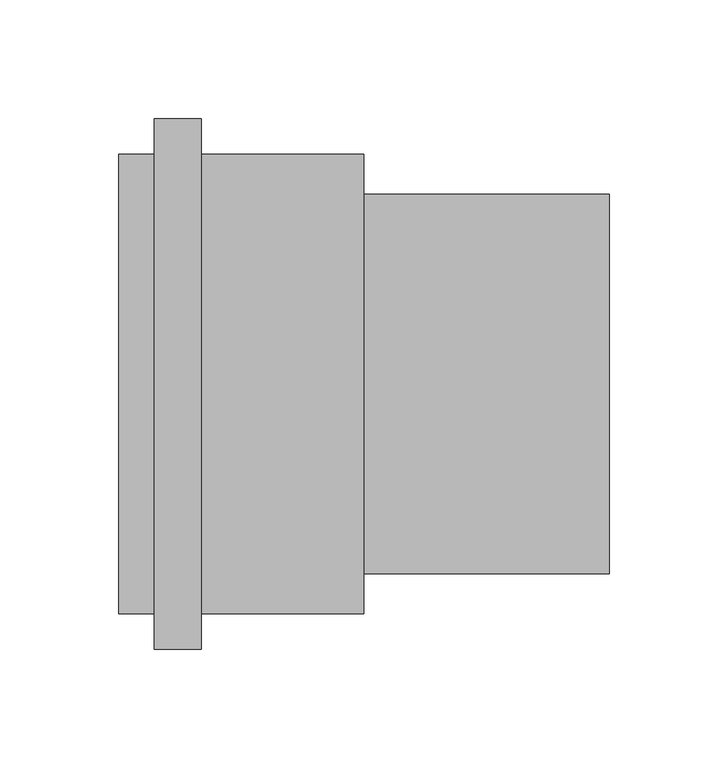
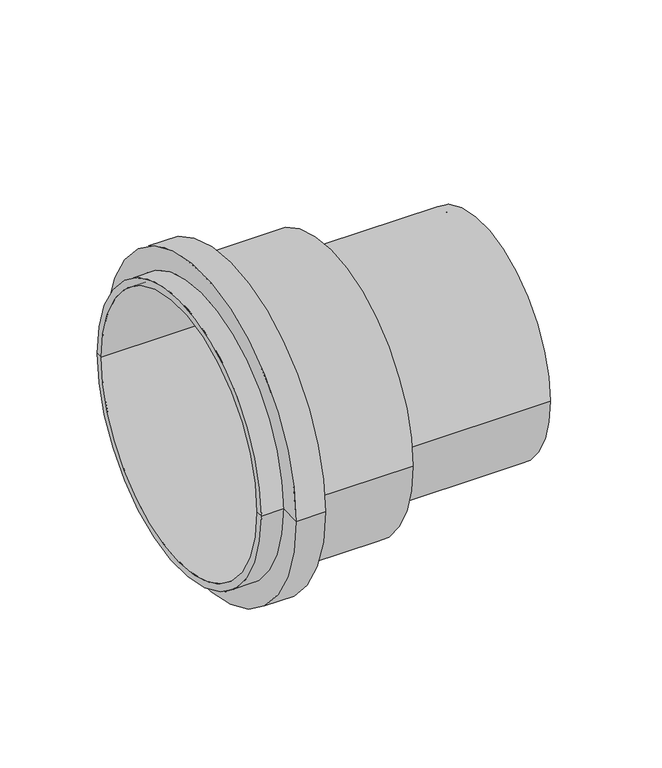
"""IFC4 building model written with IfcOpenShell, lengths in millimetres: pipe fitting geometry, OSMA_KG2000_PPKGUS : Přechodka Kamenina-KG2000."""

import ifcopenshell
import ifcopenshell.guid

model = None  # the IFC model being written
_history = None  # IfcOwnerHistory: only IFC2X3 demands one
_inside = {}  # id of a spatial element -> (the spatial element, [elements in it])
_under = {}  # id of a project, library or spatial element -> (it, [spatial elements below it])
_declared = {}  # id of a project -> (the project, [libraries it declares])
_typed = {}  # id of a type object -> (the type object, [elements of that type])
_made_of = {}  # id of a material, layer set ... -> (it, [elements and type objects made of it])


def new_model(schema):
    """Start an empty IFC model of exactly this schema.

    Asked for "IFC4X3", IfcOpenShell would pick the latest addendum, in which some entities
    have other attributes; the version numbers below select the first issue.
    IFC2X3 requires an IfcOwnerHistory on every rooted entity: one is made here for all.
    """
    global model, _history
    if schema == "IFC4X3":
        model = ifcopenshell.file(schema_version=(4, 3, 0, 0))
    else:
        model = ifcopenshell.file(schema=schema)
    _inside.clear()
    _under.clear()
    _declared.clear()
    _typed.clear()
    _made_of.clear()
    _history = None
    if model.schema == "IFC2X3":
        org = make("IfcOrganization", Name="unknown")
        user = make(
            "IfcPersonAndOrganization",
            ThePerson=make("IfcPerson", FamilyName="unknown"),
            TheOrganization=org,
        )
        app = make(
            "IfcApplication",
            ApplicationDeveloper=org,
            Version="unknown",
            ApplicationFullName="unknown",
            ApplicationIdentifier="unknown",
        )
        _history = make(
            "IfcOwnerHistory",
            OwningUser=user,
            OwningApplication=app,
            ChangeAction="ADDED",
            CreationDate=0,
        )
    return model


def make(cls, **values):
    """One entity of the class cls with the attributes given. An attribute that is None is left unset."""
    return model.create_entity(
        cls, **{name: value for name, value in values.items() if value is not None}
    )


def rooted(cls, **values):
    """An entity with a GlobalId (a new one), such as an element, a storey or a relation."""
    return make(cls, GlobalId=ifcopenshell.guid.new(), OwnerHistory=_history, **values)


def si_unit(unit_type, name, prefix=None):
    """IfcSIUnit, for example si_unit("LENGTHUNIT", "METRE", prefix="MILLI")."""
    return make("IfcSIUnit", UnitType=unit_type, Prefix=prefix, Name=name)


def assignment(units):
    """IfcUnitAssignment: the units of a project."""
    return None if units is None else make("IfcUnitAssignment", Units=units)


def point(xyz):
    """IfcCartesianPoint."""
    return None if xyz is None else make("IfcCartesianPoint", Coordinates=xyz)


def direction(xyz):
    """IfcDirection."""
    return None if xyz is None else make("IfcDirection", DirectionRatios=xyz)


def frame(location, z_axis=None, x_axis=None):
    """IfcAxis2Placement3D, a coordinate frame: its origin and axes. An axis left out is left unset."""
    return make(
        "IfcAxis2Placement3D",
        Location=point(location),
        Axis=direction(z_axis),
        RefDirection=direction(x_axis),
    )


def origin():
    """The frame at (0, 0, 0) with its axes left unset."""
    return frame((0.0, 0.0, 0.0))


def place(relative_to, where):
    """IfcLocalPlacement: puts the frame where relative to a parent placement (None: the world)."""
    return make(
        "IfcLocalPlacement", PlacementRelTo=relative_to, RelativePlacement=where
    )


def context(
    kind, dimensions, precision=None, world=None, true_north=None, identifier=None
):
    """IfcGeometricRepresentationContext, for example the 3D "Model" context."""
    return make(
        "IfcGeometricRepresentationContext",
        ContextIdentifier=identifier,
        ContextType=kind,
        CoordinateSpaceDimension=dimensions,
        Precision=precision,
        WorldCoordinateSystem=world,
        TrueNorth=true_north,
    )


def project(units=None, contexts=None):
    """IfcProject with its units and contexts."""
    return rooted(
        "IfcProject",
        Name="project",
        RepresentationContexts=contexts,
        UnitsInContext=assignment(units),
    )


def spatial(cls, under=None, at=None, **own):
    """A site, building, storey or space (cls), placed at a placement, below another one or the project."""
    s = rooted(cls, ObjectPlacement=at, **own)
    if under is not None:
        _under.setdefault(under.id(), (under, []))[1].append(s)
    return s


def polyline(points):
    """IfcPolyline through the points."""
    return make("IfcPolyline", Points=[point(p) for p in points])


def circle_curve(where, radius):
    """IfcCircle in the frame where."""
    return make("IfcCircle", Position=where, Radius=radius)


def shape(context_of_items, identifier, shape_type, items):
    """IfcShapeRepresentation: the items that make up one representation, for example the "Body"."""
    return make(
        "IfcShapeRepresentation",
        ContextOfItems=context_of_items,
        RepresentationIdentifier=identifier,
        RepresentationType=shape_type,
        Items=items,
    )


def source(mapping_origin, context_of_items, identifier, shape_type, items):
    """IfcRepresentationMap: a shape defined once, which mapped items show again and again."""
    return make(
        "IfcRepresentationMap",
        MappingOrigin=mapping_origin,
        MappedRepresentation=shape(context_of_items, identifier, shape_type, items),
    )


def transform(
    local_origin,
    x_axis=None,
    y_axis=None,
    z_axis=None,
    scale=None,
    scale2=None,
    scale3=None,
    uniform=True,
):
    """IfcCartesianTransformationOperator3D, or its non-uniform kind. x_axis, y_axis, z_axis: its Axis1, 2, 3."""
    if uniform:
        return make(
            "IfcCartesianTransformationOperator3D",
            Axis1=direction(x_axis),
            Axis2=direction(y_axis),
            LocalOrigin=point(local_origin),
            Scale=scale,
            Axis3=direction(z_axis),
        )
    return make(
        "IfcCartesianTransformationOperator3DnonUniform",
        Axis1=direction(x_axis),
        Axis2=direction(y_axis),
        LocalOrigin=point(local_origin),
        Scale=scale,
        Axis3=direction(z_axis),
        Scale2=scale2,
        Scale3=scale3,
    )


def mapped(mapping_source, mapping_target):
    """IfcMappedItem: shows the shape of a source again, moved by a transform."""
    return make(
        "IfcMappedItem", MappingSource=mapping_source, MappingTarget=mapping_target
    )


def made_of(thing, what):
    """Note that an element or type object is made of a material, layer set ...; save() writes the relation."""
    if what is not None:
        _made_of.setdefault(what.id(), (what, []))[1].append(thing)
    return thing


def element(
    cls,
    number,
    at=None,
    inside=None,
    cuts=None,
    type_object=None,
    material=None,
    context=None,
    identifier="Body",
    shape_type=None,
    held_by="IfcProductDefinitionShape",
    body=None,
    shapes=None,
    **own,
):
    """One element of the class cls, such as IfcWall. Its Tag is "e" and its number.

    at: its placement. inside: the storey or other place that contains it. cuts: it is an
    opening in that element (IfcRelVoidsElement). A single representation is given by context,
    identifier, shape_type and body (its items); several are given by shapes. held_by: the class
    of the entity that holds the representations. save() writes the other relations.
    """
    e = rooted(cls, Tag="e%d" % number, ObjectPlacement=at, **own)
    if body is not None:
        shapes = [shape(context, identifier, shape_type, body)]
    if shapes is not None:
        e.Representation = make(held_by, Representations=shapes)
    if inside is not None:
        _inside.setdefault(inside.id(), (inside, []))[1].append(e)
    if cuts is not None:
        rooted(
            "IfcRelVoidsElement", RelatingBuildingElement=cuts, RelatedOpeningElement=e
        )
    if type_object is not None:
        _typed.setdefault(type_object.id(), (type_object, []))[1].append(e)
    return made_of(e, material)


def aggregate(whole, parts):
    """IfcRelAggregates: a whole, such as a stair, and the parts it consists of."""
    return rooted("IfcRelAggregates", RelatingObject=whole, RelatedObjects=parts)


def save(model, path):
    """Write the relations noted so far, then the file.

    IfcRelAggregates (storeys below a building ...), IfcRelContainedInSpatialStructure (elements
    in a storey), IfcRelDefinesByType, IfcRelAssociatesMaterial and IfcRelDeclares: one each for
    every whole, place, type object, material and project.
    """
    for whole, parts in _under.values():
        aggregate(whole, parts)
    for where, things in _inside.values():
        rooted(
            "IfcRelContainedInSpatialStructure",
            RelatedElements=things,
            RelatingStructure=where,
        )
    for kind, things in _typed.values():
        rooted("IfcRelDefinesByType", RelatedObjects=things, RelatingType=kind)
    for what, things in _made_of.values():
        rooted("IfcRelAssociatesMaterial", RelatedObjects=things, RelatingMaterial=what)
    for by, libraries in _declared.values():
        rooted("IfcRelDeclares", RelatingContext=by, RelatedDefinitions=libraries)
    model.write(path)


def plane_surface(at):
    """IfcPlane: the flat surface through the origin of the frame at, square to its z axis."""
    return make("IfcPlane", Position=at)


def cylinder_surface(at, radius):
    """IfcCylindricalSurface: all points at the distance radius from the z axis of the frame at."""
    return make("IfcCylindricalSurface", Position=at, Radius=radius)


def revolved_surface(curve, axis_point, axis_direction):
    """IfcSurfaceOfRevolution: the curve turned about the line through axis_point along axis_direction."""
    return make(
        "IfcSurfaceOfRevolution",
        SweptCurve=make("IfcArbitraryOpenProfileDef", ProfileType="CURVE", Curve=curve),
        AxisPosition=make("IfcAxis1Placement", Location=point(axis_point), Axis=direction(axis_direction)),
    )


def advanced_brep(points, edges, surfaces, faces):
    """IfcAdvancedBrep: a solid bounded by faces that lie on surfaces and meet in shared edges.

    An edge is (start, end): straight between two places in points (the first is 0);
    or (start, end, curve); or (start, end, curve, False) where it runs against its curve.
    A face is (place in surfaces, loops), or (place, loops, False) where it looks against
    its surface's normal. A loop lists edges by number (the first is 1), with a minus sign
    where the edge is run from its end to its start. The first loop is the outer one.
    """
    corners = [point(p) for p in points]
    vertices = [make("IfcVertexPoint", VertexGeometry=c) for c in corners]
    made = []
    for start, end, *more in edges:
        made.append(
            make(
                "IfcEdgeCurve",
                EdgeStart=vertices[start],
                EdgeEnd=vertices[end],
                EdgeGeometry=more[0] if more else make("IfcPolyline", Points=[corners[start], corners[end]]),
                SameSense=more[1] if len(more) > 1 else True,
            )
        )
    hull = []
    for where, loops, *sense in faces:
        bounds = []
        for j, loop in enumerate(loops):
            ring = [make("IfcOrientedEdge", EdgeElement=made[abs(k) - 1], Orientation=k > 0) for k in loop]
            bounds.append(
                make(
                    "IfcFaceOuterBound" if j == 0 else "IfcFaceBound",
                    Bound=make("IfcEdgeLoop", EdgeList=ring),
                    Orientation=True,
                )
            )
        hull.append(make("IfcAdvancedFace", Bounds=bounds, FaceSurface=surfaces[where], SameSense=sense[0] if sense else True))
    return make("IfcAdvancedBrep", Outer=make("IfcClosedShell", CfsFaces=hull))


def pipe_fitting_672a5df6(model_context):
    return source(origin(), model_context, "Body", "AdvancedBrep", [
        advanced_brep(
        [(-4.9, -75.1, 0.0), (-4.9, 75.1, 0.0), (-4.9, 92.1, 0.0), (-4.9, -92.1, 0.0), (-103.5, 92.1, 0.0), (-103.5, -92.1, 0.0), (103.5, -80.0, 0.0), (103.5, 80.0, 0.0), (103.5, 75.1, 0.0), (103.5, -75.1, 0.0), (-103.5, -97.0, 0.0), (-103.5, 97.0, 0.0), (-88.5, 97.0, 0.0), (-88.5, -97.0, 0.0), (-88.5, 112.0, 0.0), (-88.5, -112.0, 0.0), (-68.5, 112.0, 0.0), (-68.5, -112.0, 0.0), (-68.5, 97.0, 0.0), (-68.5, -97.0, 0.0), (0.0, 97.0, 0.0), (0.0, -97.0, 0.0), (0.0, 80.0, 0.0), (0.0, -80.0, 0.0)],
        [
            (0, 1, circle_curve(frame((-4.9, 0.0, 0.0), z_axis=(1.0, 0.0, 0.0), x_axis=(0.0, 1.0, 0.0)), 75.1)),
            (1, 2),
            (2, 3, circle_curve(frame((-4.9, 0.0, 0.0), z_axis=(-1.0, 0.0, 0.0), x_axis=(0.0, 1.0, 0.0)), 92.1)),
            (3, 0),
            (1, 0, circle_curve(frame((-4.9, 0.0, 0.0), z_axis=(1.0, 0.0, 0.0), x_axis=(0.0, 1.0, 0.0)), 75.1)),
            (3, 2, circle_curve(frame((-4.9, 0.0, 0.0), z_axis=(-1.0, 0.0, 0.0), x_axis=(0.0, 1.0, 0.0)), 92.1)),
            (2, 4),
            (4, 5, circle_curve(frame((-103.5, 0.0, 0.0), z_axis=(-1.0, 0.0, 0.0), x_axis=(0.0, 1.0, 0.0)), 92.1)),
            (5, 3),
            (5, 4, circle_curve(frame((-103.5, 0.0, 0.0), z_axis=(-1.0, 0.0, 0.0), x_axis=(0.0, 1.0, 0.0)), 92.1)),
            (6, 7, circle_curve(frame((103.5, 0.0, 0.0), z_axis=(1.0, 0.0, 0.0), x_axis=(0.0, 1.0, 0.0)), 80.0)),
            (7, 8),
            (8, 9, circle_curve(frame((103.5, 0.0, 0.0), z_axis=(-1.0, 0.0, 0.0), x_axis=(0.0, 1.0, 0.0)), 75.1)),
            (9, 6),
            (7, 6, circle_curve(frame((103.5, 0.0, 0.0), z_axis=(1.0, 0.0, 0.0), x_axis=(0.0, 1.0, 0.0)), 80.0)),
            (9, 8, circle_curve(frame((103.5, 0.0, 0.0), z_axis=(-1.0, 0.0, 0.0), x_axis=(0.0, 1.0, 0.0)), 75.1)),
            (10, 11, circle_curve(frame((-103.5, 0.0, 0.0), z_axis=(1.0, 0.0, 0.0), x_axis=(0.0, 1.0, 0.0)), 97.0)),
            (11, 12),
            (12, 13, circle_curve(frame((-88.5, 0.0, 0.0), z_axis=(-1.0, 0.0, 0.0), x_axis=(0.0, 1.0, 0.0)), 97.0)),
            (13, 10),
            (11, 10, circle_curve(frame((-103.5, 0.0, 0.0), z_axis=(1.0, 0.0, 0.0), x_axis=(0.0, 1.0, 0.0)), 97.0)),
            (13, 12, circle_curve(frame((-88.5, 0.0, 0.0), z_axis=(-1.0, 0.0, 0.0), x_axis=(0.0, 1.0, 0.0)), 97.0)),
            (12, 14),
            (14, 15, circle_curve(frame((-88.5, 0.0, 0.0), z_axis=(-1.0, 0.0, 0.0), x_axis=(0.0, 1.0, 0.0)), 112.0)),
            (15, 13),
            (15, 14, circle_curve(frame((-88.5, 0.0, 0.0), z_axis=(-1.0, 0.0, 0.0), x_axis=(0.0, 1.0, 0.0)), 112.0)),
            (14, 16),
            (16, 17, circle_curve(frame((-68.5, 0.0, 0.0), z_axis=(-1.0, 0.0, 0.0), x_axis=(0.0, 1.0, 0.0)), 112.0)),
            (17, 15),
            (17, 16, circle_curve(frame((-68.5, 0.0, 0.0), z_axis=(-1.0, 0.0, 0.0), x_axis=(0.0, 1.0, 0.0)), 112.0)),
            (16, 18),
            (18, 19, circle_curve(frame((-68.5, 0.0, 0.0), z_axis=(-1.0, 0.0, 0.0), x_axis=(0.0, 1.0, 0.0)), 97.0)),
            (19, 17),
            (19, 18, circle_curve(frame((-68.5, 0.0, 0.0), z_axis=(-1.0, 0.0, 0.0), x_axis=(0.0, 1.0, 0.0)), 97.0)),
            (18, 20),
            (20, 21, circle_curve(frame((0.0, 0.0, 0.0), z_axis=(-1.0, 0.0, 0.0), x_axis=(0.0, 1.0, 0.0)), 97.0)),
            (21, 19),
            (21, 20, circle_curve(frame((0.0, 0.0, 0.0), z_axis=(-1.0, 0.0, 0.0), x_axis=(0.0, 1.0, 0.0)), 97.0)),
            (20, 22),
            (22, 23, circle_curve(frame((0.0, 0.0, 0.0), z_axis=(-1.0, 0.0, 0.0), x_axis=(0.0, 1.0, 0.0)), 80.0)),
            (23, 21),
            (23, 22, circle_curve(frame((0.0, 0.0, 0.0), z_axis=(-1.0, 0.0, 0.0), x_axis=(0.0, 1.0, 0.0)), 80.0)),
            (22, 7),
            (6, 23),
            (4, 11),
            (10, 5),
            (8, 1),
            (0, 9),
        ],
        [
            plane_surface(frame((-4.9, 0.0, 0.0), z_axis=(-1.0, 0.0, 0.0), x_axis=(0.0, 1.0, 0.0))),
            revolved_surface(polyline([(-103.5, 92.1, 0.0), (-4.900000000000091, 92.1, 0.0)]), (2028.0, 0.0, 0.0), (-1.0, 0.0, 0.0)),
            plane_surface(frame((103.5, 0.0, 0.0), z_axis=(1.0, 0.0, 0.0), x_axis=(0.0, 1.0, 0.0))),
            cylinder_surface(frame((2028.0, 0.0, 0.0), z_axis=(-1.0, 0.0, 0.0), x_axis=(0.0, 1.0, 0.0)), 97.0),
            plane_surface(frame((-88.5, 0.0, 0.0), z_axis=(-1.0, 0.0, 0.0), x_axis=(0.0, 1.0, 0.0))),
            cylinder_surface(frame((2028.0, 0.0, 0.0), z_axis=(-1.0, 0.0, 0.0), x_axis=(0.0, 1.0, 0.0)), 112.0),
            plane_surface(frame((-68.5, 0.0, 0.0), z_axis=(1.0, 0.0, 0.0), x_axis=(0.0, 1.0, 0.0))),
            plane_surface(frame((0.0, 0.0, 0.0), z_axis=(1.0, 0.0, 0.0), x_axis=(0.0, 1.0, 0.0))),
            cylinder_surface(frame((2028.0, 0.0, 0.0), z_axis=(-1.0, 0.0, 0.0), x_axis=(0.0, 1.0, 0.0)), 80.0),
            plane_surface(frame((-103.5, 0.0, 0.0), z_axis=(-1.0, 0.0, 0.0), x_axis=(0.0, 1.0, 0.0))),
            revolved_surface(polyline([(-4.900000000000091, 75.1, 0.0), (103.5, 75.1, 0.0)]), (2028.0, 0.0, 0.0), (-1.0, 0.0, 0.0)),
        ],
        [
            (0, [[1, 2, 3, 4]]),
            (0, [[5, -4, 6, -2]]),
            (1, [[-3, 7, 8, 9]]),
            (1, [[-6, -9, 10, -7]]),
            (2, [[11, 12, 13, 14]]),
            (2, [[15, -14, 16, -12]]),
            (3, [[17, 18, 19, 20]]),
            (3, [[21, -20, 22, -18]]),
            (4, [[-19, 23, 24, 25]]),
            (4, [[-22, -25, 26, -23]]),
            (5, [[-24, 27, 28, 29]]),
            (5, [[-26, -29, 30, -27]]),
            (6, [[-28, 31, 32, 33]]),
            (6, [[-30, -33, 34, -31]]),
            (3, [[-32, 35, 36, 37]]),
            (3, [[-34, -37, 38, -35]]),
            (7, [[-36, 39, 40, 41]]),
            (7, [[-38, -41, 42, -39]]),
            (8, [[-40, 43, -11, 44]]),
            (8, [[-42, -44, -15, -43]]),
            (9, [[-8, 45, -17, 46]]),
            (9, [[-10, -46, -21, -45]]),
            (10, [[-13, 47, -1, 48]]),
            (10, [[-16, -48, -5, -47]]),
        ],
    ),
    ])


if __name__ == "__main__":
    model = new_model("IFC4")
    model_context = context("Model", 3, world=origin())
    ifc_project = project(units=[si_unit("LENGTHUNIT", "METRE", prefix="MILLI")], contexts=[model_context])
    site = spatial("IfcSite", under=ifc_project)
    building = spatial("IfcBuilding", under=site)
    placement = place(None, origin())
    pipe_fitting_shape = pipe_fitting_672a5df6(model_context)
    element("IfcPipeFitting", 1, ObjectType="OSMA_KG2000_PPKGUS : Přechodka Kamenina-KG2000", at=placement, inside=building, context=model_context, shape_type="MappedRepresentation", body=[
        mapped(pipe_fitting_shape, transform((0.0, 0.0, 0.0), x_axis=(1.0, 0.0, 0.0), y_axis=(0.0, 1.0, 0.0), z_axis=(0.0, 0.0, 1.0))),
    ])
    save(model, "model.ifc")
